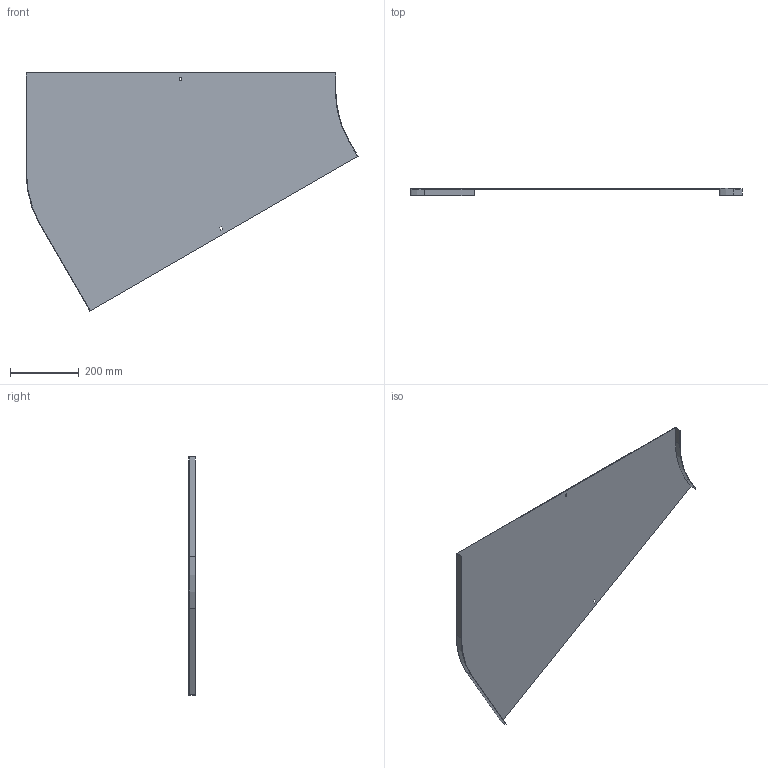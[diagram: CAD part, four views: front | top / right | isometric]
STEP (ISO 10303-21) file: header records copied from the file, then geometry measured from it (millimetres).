
FILE_DESCRIPTION (( 'STEP AP214' ), '1' );
FILE_NAME ('B2_12N3R900.step', '2025-02-21T10:49:46', ( '' ), ( '' ), 'SwSTEP 2.0', 'SolidWorks 2023', '' );
FILE_SCHEMA (( 'AUTOMOTIVE_DESIGN' ));
Length unit declared in the file: millimetre
Products named in the file (1): B2_12N3R900
Bounding box: 967.99 x 20 x 694.05 mm (x, y, z)
Volume: 707315.6 mm3; surface area: 947495.2 mm2
Topology: 1 solids, 1 shells, 26 faces, 72 edges, 48 vertices
Faces by surface type: plane 22, cylinder 4
Entity records: 855 total; most frequent: CARTESIAN_POINT 147, ORIENTED_EDGE 144, DIRECTION 134, EDGE_CURVE 72, VECTOR 64, LINE 64, VERTEX_POINT 48, AXIS2_PLACEMENT_3D 35
